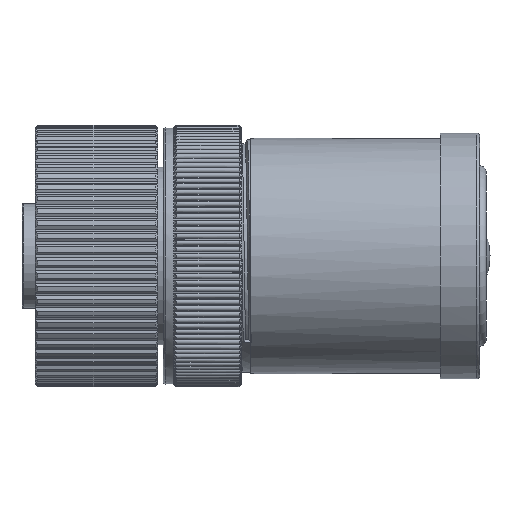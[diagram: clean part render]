
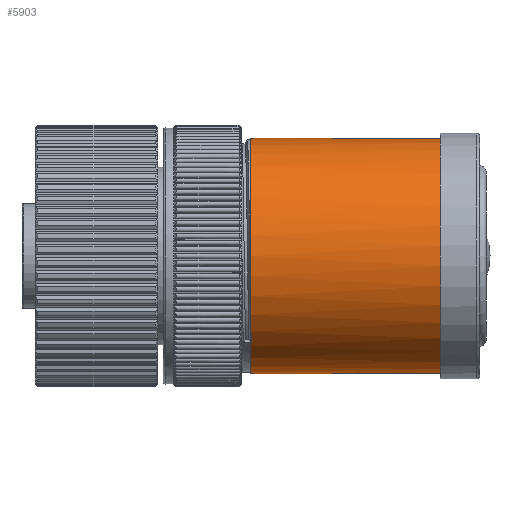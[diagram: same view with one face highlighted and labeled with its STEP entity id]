
A CAD part, left-side view. The second image highlights one B-rep face of the part: STEP entity #5903.
In plain terms, the highlighted cylindrical face has radius 9 mm (diameter 18 mm), a full revolution.
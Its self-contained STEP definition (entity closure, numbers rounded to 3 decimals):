
#1618=B_SPLINE_CURVE_WITH_KNOTS('',3,(#49721,#49722,#49723,#49724,#49725,
#49726,#49727,#49728,#49729,#49730,#49731,#49732,#49733,#49734,#49735,#49736,
#49737,#49738),.UNSPECIFIED.,.F.,.F.,(4,2,2,2,2,2,2,2,4),(0.,0.125,0.25,
0.375,0.5,0.625,0.75,0.875,1.),.UNSPECIFIED.);
#3536=LINE('',#49654,#4589);
#3537=LINE('',#49657,#4590);
#3545=LINE('',#49678,#4598);
#4589=VECTOR('',#27030,1.);
#4590=VECTOR('',#27031,1.);
#4598=VECTOR('',#27047,1.);
#5903=ADVANCED_FACE('',(#6706,#6707),#6473,.T.);
#6473=CYLINDRICAL_SURFACE('',#21974,9.);
#6706=FACE_BOUND('',#8005,.T.);
#6707=FACE_BOUND('',#8006,.T.);
#8005=EDGE_LOOP('',(#13112,#13113,#13114,#13115,#13116));
#8006=EDGE_LOOP('',(#13117));
#13112=ORIENTED_EDGE('',*,*,#18321,.F.);
#13113=ORIENTED_EDGE('',*,*,#18320,.F.);
#13114=ORIENTED_EDGE('',*,*,#18342,.T.);
#13115=ORIENTED_EDGE('',*,*,#18331,.T.);
#13116=ORIENTED_EDGE('',*,*,#18341,.F.);
#13117=ORIENTED_EDGE('',*,*,#18343,.F.);
#15574=VERTEX_POINT('',#49655);
#15575=VERTEX_POINT('',#49656);
#15576=VERTEX_POINT('',#49658);
#15581=VERTEX_POINT('',#49671);
#15584=VERTEX_POINT('',#49677);
#15589=VERTEX_POINT('',#49741);
#18320=EDGE_CURVE('',#15574,#15575,#3536,.T.);
#18321=EDGE_CURVE('',#15575,#15576,#3537,.T.);
#18331=EDGE_CURVE('',#15581,#15584,#3545,.T.);
#18341=EDGE_CURVE('',#15576,#15584,#19822,.T.);
#18342=EDGE_CURVE('',#15574,#15581,#1618,.T.);
#18343=EDGE_CURVE('',#15589,#15589,#19823,.T.);
#19822=CIRCLE('',#21969,9.);
#19823=CIRCLE('',#21973,9.);
#21969=AXIS2_PLACEMENT_3D('',#49718,#27081,#27082);
#21973=AXIS2_PLACEMENT_3D('',#49740,#27089,#27090);
#21974=AXIS2_PLACEMENT_3D('',#49742,#27091,#27092);
#27030=DIRECTION('',(0.,-1.,0.));
#27031=DIRECTION('',(0.,-1.,0.));
#27047=DIRECTION('',(0.,-1.,0.));
#27081=DIRECTION('',(0.,-1.,0.));
#27082=DIRECTION('',(1.,0.,0.));
#27089=DIRECTION('',(0.,1.,0.));
#27090=DIRECTION('',(1.,0.,0.));
#27091=DIRECTION('',(0.,1.,0.));
#27092=DIRECTION('',(1.,0.,0.));
#49654=CARTESIAN_POINT('',(4.975,-25.5,7.5));
#49655=CARTESIAN_POINT('',(4.975,-25.5,7.5));
#49656=CARTESIAN_POINT('',(4.975,-25.525,7.5));
#49657=CARTESIAN_POINT('',(4.975,-25.5,7.5));
#49658=CARTESIAN_POINT('',(4.975,-32.,7.5));
#49671=CARTESIAN_POINT('',(4.975,-25.525,-7.5));
#49677=CARTESIAN_POINT('',(4.975,-32.,-7.5));
#49678=CARTESIAN_POINT('',(4.975,-25.5,-7.5));
#49718=CARTESIAN_POINT('',(0.,-32.,0.));
#49721=CARTESIAN_POINT('',(4.975,-25.5,7.5));
#49722=CARTESIAN_POINT('',(4.975,-24.436,7.5));
#49723=CARTESIAN_POINT('',(5.334,-23.434,7.272));
#49724=CARTESIAN_POINT('',(6.223,-21.687,6.528));
#49725=CARTESIAN_POINT('',(6.746,-20.921,6.012));
#49726=CARTESIAN_POINT('',(7.709,-19.593,4.714));
#49727=CARTESIAN_POINT('',(8.157,-19.032,3.927));
#49728=CARTESIAN_POINT('',(8.809,-18.226,2.085));
#49729=CARTESIAN_POINT('',(9.,-18.,1.041));
#49730=CARTESIAN_POINT('',(9.,-18.,-1.046));
#49731=CARTESIAN_POINT('',(8.808,-18.227,-2.09));
#49732=CARTESIAN_POINT('',(8.154,-19.035,-3.933));
#49733=CARTESIAN_POINT('',(7.703,-19.601,-4.724));
#49734=CARTESIAN_POINT('',(6.741,-20.928,-6.017));
#49735=CARTESIAN_POINT('',(6.214,-21.7,-6.536));
#49736=CARTESIAN_POINT('',(5.329,-23.448,-7.276));
#49737=CARTESIAN_POINT('',(4.97,-24.461,-7.503));
#49738=CARTESIAN_POINT('',(4.975,-25.525,-7.5));
#49740=CARTESIAN_POINT('',(0.,-17.5,0.));
#49741=CARTESIAN_POINT('',(9.,-17.5,0.));
#49742=CARTESIAN_POINT('',(0.,-35.,0.));
